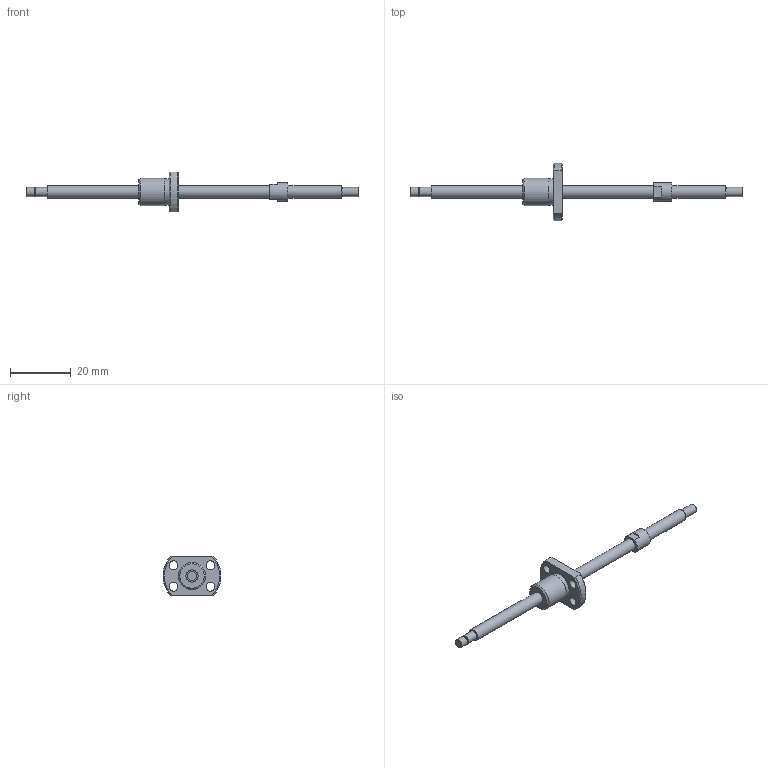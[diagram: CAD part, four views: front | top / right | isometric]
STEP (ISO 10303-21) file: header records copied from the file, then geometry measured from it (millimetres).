
FILE_DESCRIPTION(/* description */ ('STEP AP214'),/* implementation_level */ '2;1');
FILE_NAME(/* name */ 'SRT0401K-69R109C10B0X(B30Processing0X)',/* time_stamp */ '2026-08-04T17:47:13+02:00',/* author */ ('License CC BY-ND 4.0'),/* organization */ ('CADENAS'),/* preprocessor_version */ 'ST-DEVELOPER v20',/* originating_system */ 'PARTsolutions',/* authorisation */ ' ');
FILE_SCHEMA (('AUTOMOTIVE_DESIGN {1 0 10303 214 3 1 1}'));
Length unit declared in the file: millimetre
Products named in the file (3): SRT0401K-69R109C10B0X(B30Processing0X); 2BProcessing109; SR0401K_nut
Assembly tree (2 placements, depth 2):
  SRT0401K-69R109C10B0X(B30Processing0X)
    2BProcessing109
    SR0401K_nut
Bounding box: 109 x 18.93 x 13 mm (x, y, z)
Volume: 2446.7 mm3; surface area: 2510 mm2
Topology: 2 solids, 2 shells, 40 faces, 82 edges, 54 vertices
Faces by surface type: plane 18, cylinder 16, cone 6
Full cylindrical faces by diameter (mm): 2.7 x1, 2.9 x4, 3 x3, 4 x3, 6 x1, 8.6 x1, 9 x1
Entity records: 1085 total; most frequent: CARTESIAN_POINT 185, DIRECTION 184, ORIENTED_EDGE 130, AXIS2_PLACEMENT_3D 84, EDGE_LOOP 74, FACE_BOUND 74, EDGE_CURVE 65, VERTEX_POINT 53
